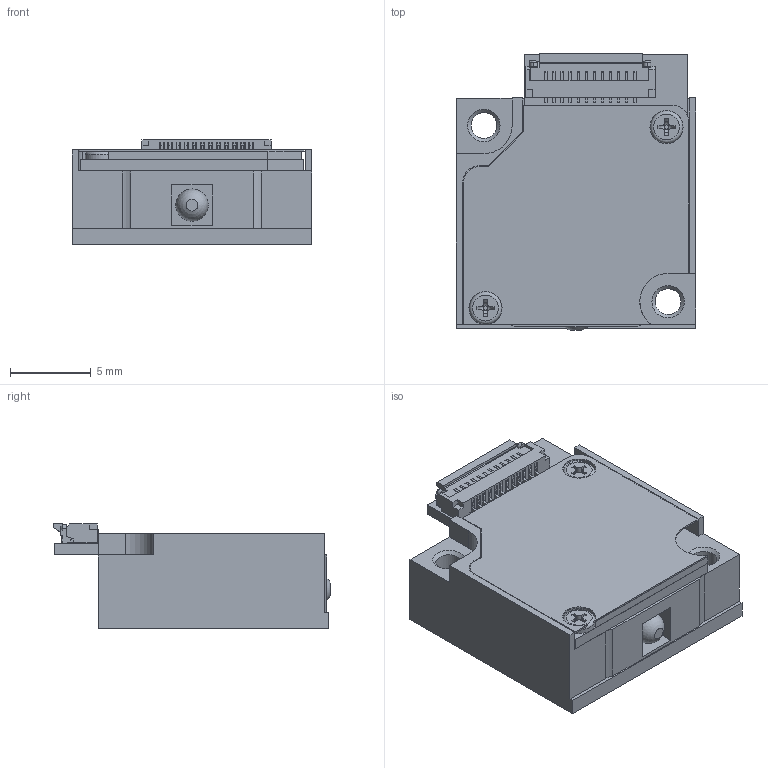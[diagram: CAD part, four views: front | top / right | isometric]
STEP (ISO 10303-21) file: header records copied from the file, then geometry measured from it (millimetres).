
FILE_DESCRIPTION(/* description */ (''),/* implementation_level */ '2;1');
FILE_NAME(/* name */ 'XUMU_1_assy_F11.stp',/* time_stamp */ '2024-09-02T14:17:30+02:00',/* author */ (''),/* organization */ (''),/* preprocessor_version */ 'ST-DEVELOPER v16',/* originating_system */ 'SIEMENS PLM Software NX 10.0',/* authorisation */ '');
FILE_SCHEMA (('AUTOMOTIVE_DESIGN { 1 0 10303 214 3 1 1 1 }'));
Length unit declared in the file: millimetre
Products named in the file (9): FH33-12S-0.5SH; Kogel_3001_001_001_A; XLA_1_cover_D_mod_XUMU; XLA_1_cover_tape_B_mod_XUMU; PACK-SMIB1.4-3_stp; FH33-12S-0.5SH_stp; XLA_1_top_PCB_D_mod_XUMU_MODEL; XLA_1_body_F6_mod_XUMU; XUMU_1_assy_F11
Assembly tree (9 placements, depth 4):
  XUMU_1_assy_F11
    XLA_1_body_F6_mod_XUMU
      Kogel_3001_001_001_A
    PACK-SMIB1.4-3_stp  x2
    XLA_1_cover_tape_B_mod_XUMU
    XLA_1_cover_D_mod_XUMU
    XLA_1_top_PCB_D_mod_XUMU_MODEL
      FH33-12S-0.5SH_stp
        FH33-12S-0.5SH
Bounding box: 14.8 x 17.13 x 6.5 mm (x, y, z)
Volume: 1187.7 mm3; surface area: 2067.8 mm2
Topology: 8 solids, 8 shells, 652 faces, 1855 edges, 1224 vertices
Faces by surface type: plane 509, cylinder 110, cone 24, torus 6, bspline 2, sphere 1
Full cylindrical faces by diameter (mm): 1.1 x2, 1.4 x2, 1.5 x2, 1.6 x2, 2 x2, 2.05 x1
Entity records: 20485 total; most frequent: CARTESIAN_POINT 3766, ORIENTED_EDGE 3494, DIRECTION 3208, EDGE_CURVE 1747, LINE 1496, VECTOR 1496, VERTEX_POINT 1170, AXIS2_PLACEMENT_3D 856
